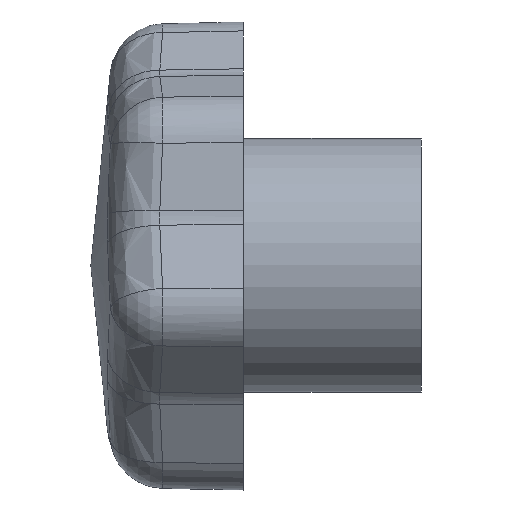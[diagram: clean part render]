
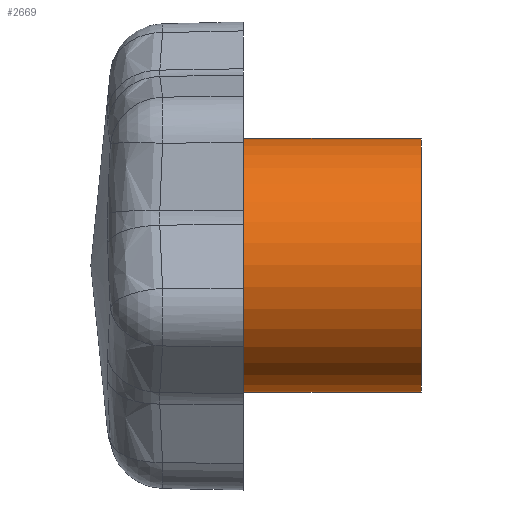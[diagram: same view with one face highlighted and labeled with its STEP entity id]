
A CAD part, left-side view. The second image highlights one B-rep face of the part: STEP entity #2669.
In plain terms, the highlighted cylindrical face has radius 5 mm (diameter 10 mm), a partial arc.
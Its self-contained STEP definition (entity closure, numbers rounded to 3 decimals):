
#42 = AXIS2_PLACEMENT_3D ( 'NONE', #562, #172, #3262 ) ;
#172 = DIRECTION ( 'NONE',  ( 0., -1., 0. ) ) ;
#246 = EDGE_CURVE ( 'NONE', #4913, #345, #2608, .T. ) ;
#263 = ORIENTED_EDGE ( 'NONE', *, *, #246, .T. ) ;
#306 = CARTESIAN_POINT ( 'NONE',  ( 0., 3.485, 0. ) ) ;
#345 = VERTEX_POINT ( 'NONE', #3417 ) ;
#492 = DIRECTION ( 'NONE',  ( 0., -1., 0. ) ) ;
#562 = CARTESIAN_POINT ( 'NONE',  ( 0., 6.001, 0. ) ) ;
#769 = CARTESIAN_POINT ( 'NONE',  ( 0., -7., -5. ) ) ;
#908 = DIRECTION ( 'NONE',  ( 0., 1., 0. ) ) ;
#1185 = VECTOR ( 'NONE', #1364, 1000. ) ;
#1195 = VECTOR ( 'NONE', #492, 1000. ) ;
#1364 = DIRECTION ( 'NONE',  ( 0., -1., 0. ) ) ;
#1415 = ORIENTED_EDGE ( 'NONE', *, *, #3075, .T. ) ;
#1555 = CIRCLE ( 'NONE', #1981, 5. ) ;
#1680 = CARTESIAN_POINT ( 'NONE',  ( 0., 3.485, 5. ) ) ;
#1692 = ORIENTED_EDGE ( 'NONE', *, *, #4377, .F. ) ;
#1771 = CYLINDRICAL_SURFACE ( 'NONE', #42, 5. ) ;
#1896 = FACE_OUTER_BOUND ( 'NONE', #3701, .T. ) ;
#1981 = AXIS2_PLACEMENT_3D ( 'NONE', #3217, #908, #3610 ) ;
#2229 = LINE ( 'NONE', #3282, #1185 ) ;
#2608 = CIRCLE ( 'NONE', #3619, 5. ) ;
#2669 = ADVANCED_FACE ( 'NONE', ( #1896 ), #1771, .T. ) ;
#2814 = CARTESIAN_POINT ( 'NONE',  ( 0., 6.001, -5. ) ) ;
#2993 = DIRECTION ( 'NONE',  ( 0., 0., -1. ) ) ;
#3010 = ORIENTED_EDGE ( 'NONE', *, *, #3700, .T. ) ;
#3075 = EDGE_CURVE ( 'NONE', #345, #4153, #4172, .T. ) ;
#3217 = CARTESIAN_POINT ( 'NONE',  ( 0., -7., 0. ) ) ;
#3262 = DIRECTION ( 'NONE',  ( 0., 0., -1. ) ) ;
#3282 = CARTESIAN_POINT ( 'NONE',  ( 0., 6.001, 5. ) ) ;
#3417 = CARTESIAN_POINT ( 'NONE',  ( 0., 3.485, -5. ) ) ;
#3610 = DIRECTION ( 'NONE',  ( 0., 0., 1. ) ) ;
#3619 = AXIS2_PLACEMENT_3D ( 'NONE', #306, #3811, #2993 ) ;
#3701 = EDGE_LOOP ( 'NONE', ( #1692, #263, #1415, #3010 ) ) ;
#3700 = EDGE_CURVE ( 'NONE', #4153, #4673, #1555, .T. ) ;
#3811 = DIRECTION ( 'NONE',  ( 0., -1., 0. ) ) ;
#4153 = VERTEX_POINT ( 'NONE', #769 ) ;
#4172 = LINE ( 'NONE', #2814, #1195 ) ;
#4377 = EDGE_CURVE ( 'NONE', #4913, #4673, #2229, .T. ) ;
#4646 = CARTESIAN_POINT ( 'NONE',  ( 0., -7., 5. ) ) ;
#4673 = VERTEX_POINT ( 'NONE', #4646 ) ;
#4913 = VERTEX_POINT ( 'NONE', #1680 ) ;
